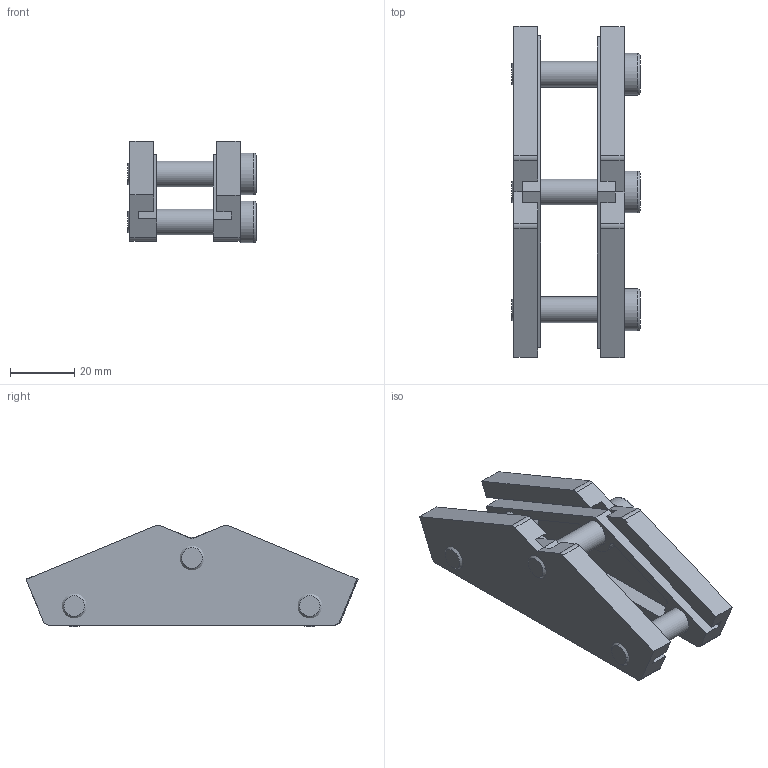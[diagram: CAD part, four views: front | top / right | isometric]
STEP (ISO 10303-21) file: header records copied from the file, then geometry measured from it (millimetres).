
FILE_DESCRIPTION(/* description */ ('ANGLE BRACKET 135° FOR SUPPORT BEAM 40x80 AND 80x80 '),/* implementation_level */ '2;1');
FILE_NAME(/* name */ '\\carryline.intra\privat\users\mathias\Desktop\Tillfälliga filer\100-3035.stp',/* time_stamp */ '2018-11-20T10:49:50+01:00',/* author */ ('mikael'),/* organization */ (''),/* preprocessor_version */ 'ST-DEVELOPER v17',/* originating_system */ 'Autodesk Inventor 2018',/* authorisation */ '');
FILE_SCHEMA (('AUTOMOTIVE_DESIGN { 1 0 10303 214 3 1 1 }'));
Length unit declared in the file: millimetre
Products named in the file (4): 100-3035; 100-3035-1; 100-3035-3; DIN 7984 - M8 x 35
Assembly tree (5 placements, depth 2):
  100-3035
    100-3035-1
    100-3035-3
    DIN 7984 - M8 x 35  x3
Bounding box: 40 x 103.6 x 31.71 mm (x, y, z)
Volume: 32857.9 mm3; surface area: 21656.8 mm2
Topology: 5 solids, 5 shells, 119 faces, 327 edges, 223 vertices
Faces by surface type: plane 69, cylinder 38, torus 6, cone 6
Full cylindrical faces by diameter (mm): 6.647 x3, 8 x3, 8.5 x3, 13 x3
Entity records: 3049 total; most frequent: CARTESIAN_POINT 521, DIRECTION 520, ORIENTED_EDGE 488, EDGE_CURVE 244, AXIS2_PLACEMENT_3D 185, VERTEX_POINT 165, LINE 150, VECTOR 150
